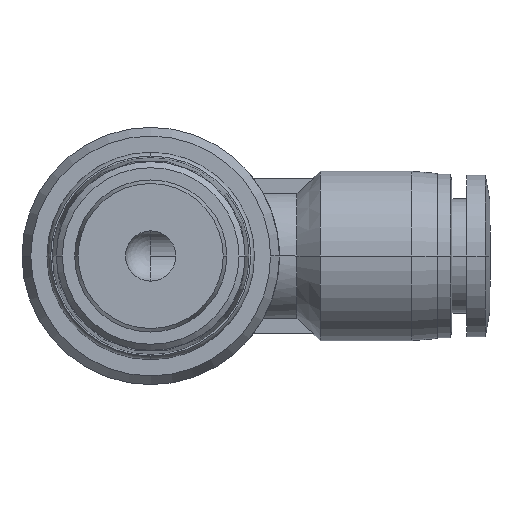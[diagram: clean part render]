
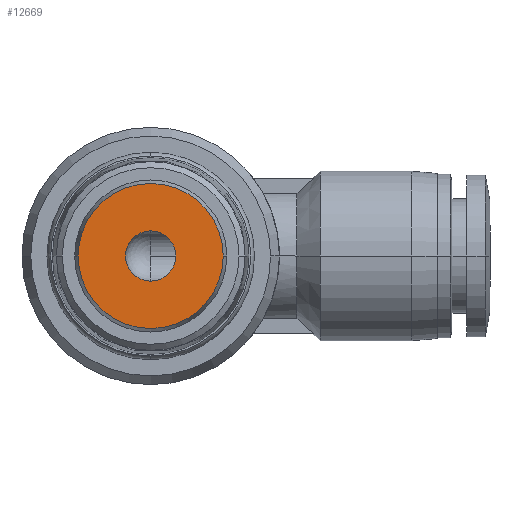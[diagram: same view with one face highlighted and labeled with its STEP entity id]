
A CAD part, front view. The second image highlights one B-rep face of the part: STEP entity #12669.
In plain terms, the highlighted planar face has unit normal (0, -1, 0).
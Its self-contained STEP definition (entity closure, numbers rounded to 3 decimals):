
#644 = EDGE_LOOP ( 'NONE', ( #15319, #13231 ) ) ;
#1217 = DIRECTION ( 'NONE',  ( -1., 0., 0. ) ) ;
#1401 = DIRECTION ( 'NONE',  ( -1., 0., 0. ) ) ;
#2023 = ORIENTED_EDGE ( 'NONE', *, *, #10905, .F. ) ;
#2339 = VERTEX_POINT ( 'NONE', #5718 ) ;
#2348 = EDGE_CURVE ( 'NONE', #10170, #2339, #2731, .T. ) ;
#2622 = DIRECTION ( 'NONE',  ( 0., 1., 0. ) ) ;
#2731 = CIRCLE ( 'NONE', #5398, 2.15 ) ;
#2960 = PLANE ( 'NONE',  #4752 ) ;
#4043 = DIRECTION ( 'NONE',  ( 0., 0., -1. ) ) ;
#4752 = AXIS2_PLACEMENT_3D ( 'NONE', #12889, #9188, #4043 ) ;
#5398 = AXIS2_PLACEMENT_3D ( 'NONE', #11063, #13490, #16149 ) ;
#5718 = CARTESIAN_POINT ( 'NONE',  ( -2.15, 0., 0. ) ) ;
#5769 = CIRCLE ( 'NONE', #15369, 6.2 ) ;
#6147 = DIRECTION ( 'NONE',  ( 0., 1., 0. ) ) ;
#7306 = CARTESIAN_POINT ( 'NONE',  ( 0., 0., 0. ) ) ;
#7417 = AXIS2_PLACEMENT_3D ( 'NONE', #11314, #6147, #1401 ) ;
#7589 = VERTEX_POINT ( 'NONE', #13031 ) ;
#9188 = DIRECTION ( 'NONE',  ( 0., -1., 0. ) ) ;
#9836 = AXIS2_PLACEMENT_3D ( 'NONE', #12560, #2622, #10049 ) ;
#10049 = DIRECTION ( 'NONE',  ( -1., 0., 0. ) ) ;
#10170 = VERTEX_POINT ( 'NONE', #16413 ) ;
#10487 = EDGE_LOOP ( 'NONE', ( #13854, #2023 ) ) ;
#10905 = EDGE_CURVE ( 'NONE', #13222, #7589, #5769, .T. ) ;
#11063 = CARTESIAN_POINT ( 'NONE',  ( 0., 0., 0. ) ) ;
#11314 = CARTESIAN_POINT ( 'NONE',  ( 0., 0., 0. ) ) ;
#11558 = FACE_BOUND ( 'NONE', #644, .T. ) ;
#12490 = CIRCLE ( 'NONE', #9836, 2.15 ) ;
#12560 = CARTESIAN_POINT ( 'NONE',  ( 0., 0., 0. ) ) ;
#12669 = ADVANCED_FACE ( 'NONE', ( #14299, #11558 ), #2960, .T. ) ;
#12889 = CARTESIAN_POINT ( 'NONE',  ( -3.1, 0., 0. ) ) ;
#13031 = CARTESIAN_POINT ( 'NONE',  ( -6.2, 0., 0. ) ) ;
#13222 = VERTEX_POINT ( 'NONE', #15911 ) ;
#13231 = ORIENTED_EDGE ( 'NONE', *, *, #2348, .T. ) ;
#13370 = EDGE_CURVE ( 'NONE', #7589, #13222, #14601, .T. ) ;
#13490 = DIRECTION ( 'NONE',  ( 0., 1., 0. ) ) ;
#13823 = EDGE_CURVE ( 'NONE', #2339, #10170, #12490, .T. ) ;
#13854 = ORIENTED_EDGE ( 'NONE', *, *, #13370, .F. ) ;
#14299 = FACE_OUTER_BOUND ( 'NONE', #10487, .T. ) ;
#14601 = CIRCLE ( 'NONE', #7417, 6.2 ) ;
#14987 = DIRECTION ( 'NONE',  ( 0., 1., 0. ) ) ;
#15319 = ORIENTED_EDGE ( 'NONE', *, *, #13823, .T. ) ;
#15369 = AXIS2_PLACEMENT_3D ( 'NONE', #7306, #14987, #1217 ) ;
#15911 = CARTESIAN_POINT ( 'NONE',  ( 6.2, 0., 0. ) ) ;
#16149 = DIRECTION ( 'NONE',  ( -1., 0., 0. ) ) ;
#16413 = CARTESIAN_POINT ( 'NONE',  ( 2.15, 0., 0. ) ) ;
